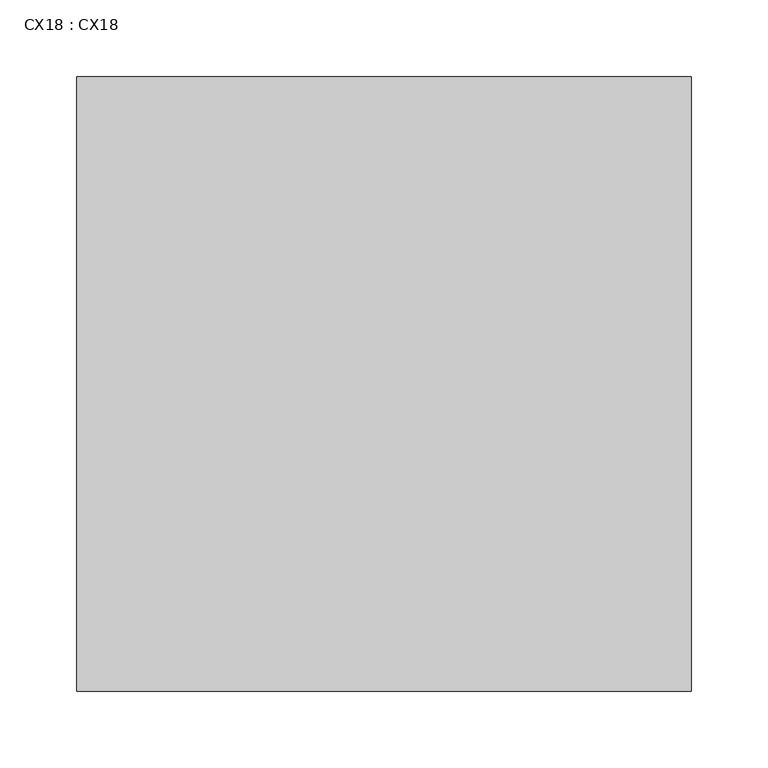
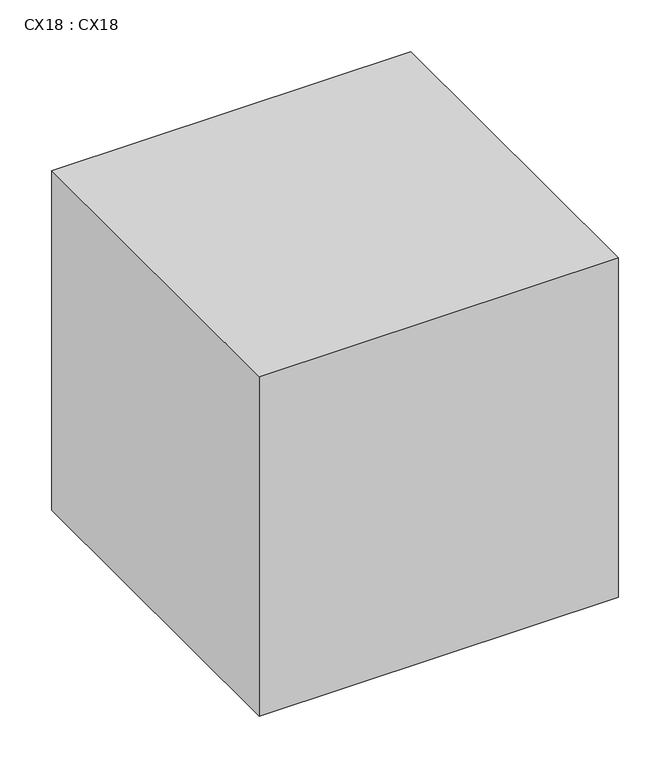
"""IFC4 building model written with IfcOpenShell, lengths in millimetres: proxy geometry, CX18 : CX18."""

from ifc_helpers import new_model, si_unit, frame, origin, place, context, project, spatial, polyline, outline, extrude, source, transform, mapped, element, save


def cx18_cx18_d316048a(model_context):
    return source(origin(), model_context, "Body", "SweptSolid", [
        extrude(outline(polyline([(11312.3, 8310.0), (11312.3, 7910.0), (10912.3, 7910.0), (10912.3, 8310.0), (11312.3, 8310.0)])), frame((0.0, 0.0, -370.0), z_axis=(0.0, 0.0, 1.0), x_axis=(1.0, 0.0, 0.0)), (0.0, 0.0, 1.0), 400.0),
    ])


if __name__ == "__main__":
    model = new_model("IFC4")
    model_context = context("Model", 3, world=origin())
    ifc_project = project(units=[si_unit("LENGTHUNIT", "METRE", prefix="MILLI")], contexts=[model_context])
    site = spatial("IfcSite", under=ifc_project)
    building = spatial("IfcBuilding", under=site)
    placement = place(None, origin())
    cx18_cx18_shape = cx18_cx18_d316048a(model_context)
    element("IfcBuildingElementProxy", 1, Name="CX18 : CX18", ObjectType="CX18 : CX18", at=placement, inside=building, context=model_context, shape_type="MappedRepresentation", body=[
        mapped(cx18_cx18_shape, transform((0.0, 0.0, 0.0), x_axis=(1.0, 0.0, 0.0), y_axis=(0.0, 1.0, 0.0), z_axis=(0.0, 0.0, 1.0))),
    ])
    save(model, "model.ifc")
